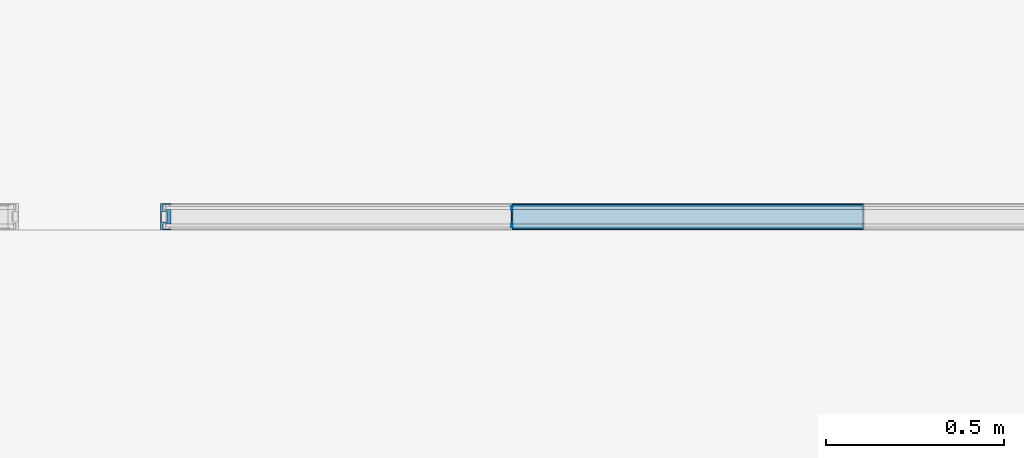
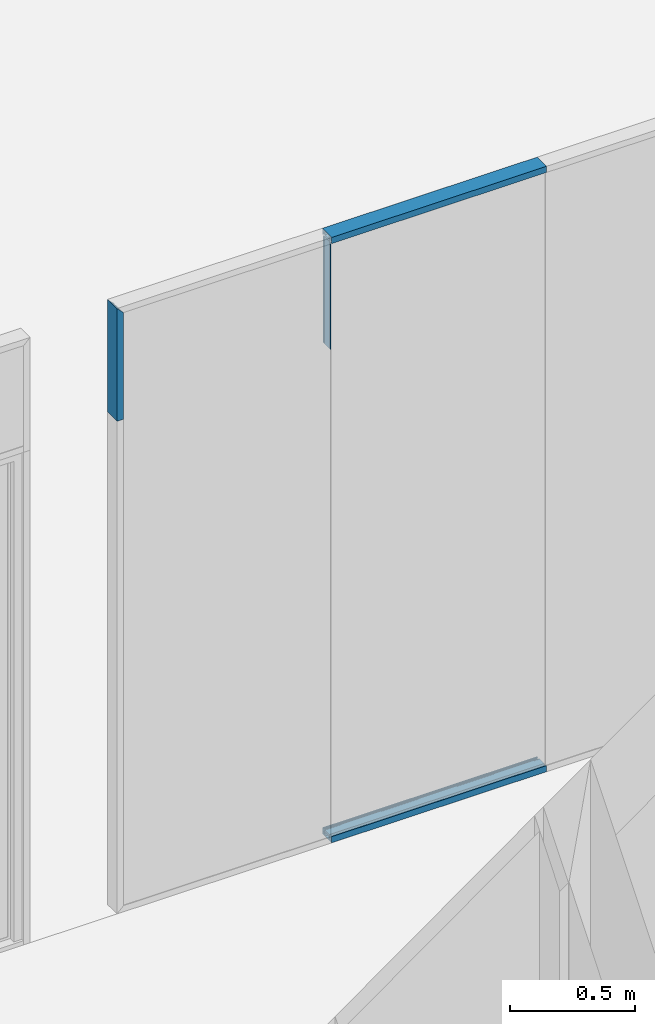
# One storey, part 28 of 62: 7 building element parts, 5 elements without a shape of their own.
"""IFC2X3 building model written with IfcOpenShell, lengths in millimetres."""

from ifc_helpers import new_model, entity, si_unit, converted_unit, derived_unit, money_unit, direction, frame, origin_with_axes, place, context, subcontext, project, spatial, faceted_brep, source, transform, mapped, material, type_object, element, aggregate, save


model = new_model("IFC2X3")

# Units and contexts
model_context = context("Model", 3, precision=0.01, world=origin_with_axes(), true_north=direction((0.0, 1.0)))
body_context = subcontext(model_context, "Body", "Model", "MODEL_VIEW")
ifc_project = project(units=[si_unit("LENGTHUNIT", "METRE", prefix="MILLI"), si_unit("AREAUNIT", "SQUARE_METRE"), si_unit("VOLUMEUNIT", "CUBIC_METRE"), converted_unit("PLANEANGLEUNIT", "DEGREE", entity("IfcPlaneAngleMeasure", 0.0174532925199), si_unit("PLANEANGLEUNIT", "RADIAN"), dimensions=[0, 0, 0, 0, 0, 0, 0]), si_unit("SOLIDANGLEUNIT", "STERADIAN"), money_unit("EUR"), converted_unit("TIMEUNIT", "Year", entity("IfcTimeMeasure", 31556926.0), si_unit("TIMEUNIT", "SECOND"), dimensions=[0, 0, 1, 0, 0, 0, 0]), si_unit("MASSUNIT", "GRAM", prefix="KILO"), si_unit("THERMODYNAMICTEMPERATUREUNIT", "DEGREE_CELSIUS"), si_unit("LUMINOUSINTENSITYUNIT", "LUMEN"), si_unit("ENERGYUNIT", "JOULE", prefix="MEGA"), derived_unit("THERMALCONDUCTANCEUNIT", [(si_unit("POWERUNIT", "WATT"), 1), (si_unit("LENGTHUNIT", "METRE"), -1), (si_unit("THERMODYNAMICTEMPERATUREUNIT", "KELVIN"), -1)]), derived_unit("SPECIFICHEATCAPACITYUNIT", [(si_unit("ENERGYUNIT", "JOULE"), 1), (si_unit("MASSUNIT", "GRAM", prefix="KILO"), -1), (si_unit("THERMODYNAMICTEMPERATUREUNIT", "KELVIN"), -1)]), derived_unit("MASSDENSITYUNIT", [(si_unit("MASSUNIT", "GRAM", prefix="KILO"), 1), (si_unit("VOLUMEUNIT", "CUBIC_METRE"), -1)])], contexts=[model_context])

# Site, building, storey
site_placement = place(None, origin_with_axes())
site = spatial("IfcSite", under=ifc_project, at=site_placement, Name="Puškini 31, Narva", CompositionType="ELEMENT")
building_placement = place(site_placement, origin_with_axes())
building = spatial("IfcBuilding", under=site, at=building_placement, Name="Narva Riigigümnaasium", CompositionType="ELEMENT")
storey_placement = place(building_placement, frame((0.0, 0.0, 660.0), z_axis=(0.0, 0.0, 1.0), x_axis=(1.0, 0.0, 0.0)))
storey = spatial("IfcBuildingStorey", under=building, at=storey_placement, Name="2.korrus +0.66", CompositionType="ELEMENT", Elevation=660.0)

# Curtain wall, members, building element parts
curtain_wall_type = type_object("IfcCurtainWallType", Name="Curtain Wall Type", PredefinedType="NOTDEFINED")
curtain_wall_placement = place(storey_placement, frame((45089.2571373, 223837.000216, -1.99739158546e-06), z_axis=(0.0, 0.0, 1.0), x_axis=(1.0, 0.0, 0.0)))
curtain_wall = element("IfcCurtainWall", 1, at=curtain_wall_placement, inside=storey, type_object=curtain_wall_type, Name="G-SKLF-52")
member_type_1 = type_object("IfcMemberType", Name="30 x 37", PredefinedType="MULLION")
member_1_placement = place(curtain_wall_placement, frame((-558.057143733, 0.0, 0.0), z_axis=(-1.0, 0.0, 0.0), x_axis=(0.0, 0.0, 1.0)))
member_1 = element("IfcMember", 2, at=member_1_placement, type_object=member_type_1, Name="G-SKLF-54-raam", ObjectType="MULLION")
ifc_material_1 = material(Name="Klaasvill")
shared_shape_1 = source(origin_with_axes(), body_context, "Body", "Brep", [
    faceted_brep([(7.49999990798, 20.000000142, 0.0), (13.8499999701, 20.000000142, 0.0), (13.8499999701, 20.000000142, 989.6), (7.49999990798, 20.000000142, 989.6), (7.49999990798, 34.0161444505, 0.0), (13.8499999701, 34.0161444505, 0.0), (13.8499999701, 34.0161444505, 989.6), (7.49999990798, 34.0161444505, 989.6)], [[[0, 1, 2, 3]], [[0, 4, 5, 1]], [[1, 5, 6, 2]], [[3, 2, 6, 7]], [[4, 0, 3, 7]], [[5, 4, 7, 6]]]),
    faceted_brep([(24.987414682, 34.0161444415, 0.0), (25.004489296, 32.0307503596, 0.0), (25.004489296, 32.0307503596, 989.6), (24.987414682, 34.0161444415, 989.6), (28.5126239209, 34.0161444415, 0.0), (28.7655837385, 33.0385325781, 0.0), (28.4955493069, 32.0307503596, 0.0), (27.75780152, 31.2930025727, 0.0), (26.7500193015, 31.0229681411, 0.0), (25.742237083, 31.2930025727, 0.0), (25.742237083, 31.2930025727, 989.6), (26.7500193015, 31.0229681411, 989.6), (27.75780152, 31.2930025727, 989.6), (28.4955493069, 32.0307503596, 989.6), (28.7655837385, 33.0385325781, 989.6), (28.5126239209, 34.0161444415, 989.6)], [[[0, 1, 2, 3]], [[0, 4, 5, 6, 7, 8, 9, 1]], [[1, 9, 10, 2]], [[3, 2, 10, 11, 12, 13, 14, 15]], [[4, 0, 3, 15]], [[5, 4, 15, 14]], [[6, 5, 14, 13]], [[7, 6, 13, 12]], [[8, 7, 12, 11]], [[9, 8, 11, 10]]]),
    faceted_brep([(7.49999990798, -19.9999997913, 0.0), (7.49999990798, -34.0161445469, 0.0), (7.49999990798, -34.0161445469, 989.6), (7.49999990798, -19.9999997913, 989.6), (13.8499999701, -19.9999997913, 0.0), (13.8499999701, -34.0161445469, 0.0), (13.8499999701, -34.0161445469, 989.6), (13.8499999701, -19.9999997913, 989.6)], [[[0, 1, 2, 3]], [[0, 4, 5, 1]], [[1, 5, 6, 2]], [[3, 2, 6, 7]], [[4, 0, 3, 7]], [[5, 4, 7, 6]]]),
    faceted_brep([(25.004489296, -32.0307503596, 0.0), (24.987414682, -34.0161444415, 0.0), (24.987414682, -34.0161444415, 989.6), (25.004489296, -32.0307503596, 989.6), (25.742237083, -31.2930025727, 0.0), (26.7500193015, -31.0229681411, 0.0), (27.75780152, -31.2930025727, 0.0), (28.4955493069, -32.0307503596, 0.0), (28.7655837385, -33.0385325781, 0.0), (28.5126239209, -34.0161444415, 0.0), (28.5126239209, -34.0161444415, 989.6), (28.7655837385, -33.0385325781, 989.6), (28.4955493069, -32.0307503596, 989.6), (27.75780152, -31.2930025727, 989.6), (26.7500193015, -31.0229681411, 989.6), (25.742237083, -31.2930025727, 989.6)], [[[0, 1, 2, 3]], [[0, 4, 5, 6, 7, 8, 9, 1]], [[1, 9, 10, 2]], [[3, 2, 10, 11, 12, 13, 14, 15]], [[4, 0, 3, 15]], [[5, 4, 15, 14]], [[6, 5, 14, 13]], [[7, 6, 13, 12]], [[8, 7, 12, 11]], [[9, 8, 11, 10]]]),
])
building_element_part_1_placement = place(member_1_placement, origin_with_axes())
building_element_part_1 = element("IfcBuildingElementPart", 3, at=building_element_part_1_placement, material=ifc_material_1, Name="Klaasvill", context=body_context, shape_type="MappedRepresentation", body=[
    mapped(shared_shape_1, transform((0.0, 0.0, 0.0))),
])
member_2_placement = place(curtain_wall_placement, frame((-1547.65714373, 0.0, 2949.99994304), z_axis=(1.0, 0.0, 0.0), x_axis=(0.0, 0.0, -1.0)))
member_2 = element("IfcMember", 4, at=member_2_placement, type_object=member_type_1, Name="G-SKLF-59-raam", ObjectType="MULLION")
building_element_part_2_placement = place(member_2_placement, origin_with_axes())
building_element_part_2 = element("IfcBuildingElementPart", 5, at=building_element_part_2_placement, material=ifc_material_1, Name="Klaasvill", context=body_context, shape_type="MappedRepresentation", body=[
    mapped(shared_shape_1, transform((0.0, 0.0, 0.0))),
])
ifc_material_2 = material(Name="Teras RAL7012")
shared_shape_2 = source(origin_with_axes(), body_context, "Body", "Brep", [
    faceted_brep([(0.0, -17.0000000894, 0.0), (29.5999996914, -17.0000000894, 0.0), (29.5999996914, -17.0000000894, 989.6), (0.0, -17.0000000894, 989.6), (0.0, 17.0000000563, 0.0), (29.5999996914, 17.0000000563, 0.0), (1.9999999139, 15.0000001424, 0.0), (1.9999999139, -15.0000001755, 0.0), (18.7999996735, -15.0000001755, 0.0), (18.7999996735, 15.0000001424, 0.0), (29.5999996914, 17.0000000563, 989.6), (0.0, 17.0000000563, 989.6), (1.9999999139, 15.0000001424, 989.6), (18.7999996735, 15.0000001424, 989.6), (18.7999996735, -15.0000001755, 989.6), (1.9999999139, -15.0000001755, 989.6)], [[[0, 1, 2, 3]], [[0, 4, 5, 1], [6, 7, 8, 9]], [[1, 5, 10, 2]], [[3, 2, 10, 11], [12, 13, 14, 15]], [[4, 0, 3, 11]], [[5, 4, 11, 10]], [[7, 6, 12, 15]], [[8, 7, 15, 14]], [[9, 8, 14, 13]], [[6, 9, 13, 12]]]),
    faceted_brep([(0.0, 17.0, 0.0), (29.5999996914, 17.0000000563, 0.0), (29.5999996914, 17.0000000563, 989.6), (0.0, 17.0, 989.6), (0.0, 37.0, 0.0), (30.0000193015, 37.0, 0.0), (30.0000193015, 34.0161444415, 0.0), (28.5126239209, 34.0161444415, 0.0), (24.987414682, 34.0161444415, 0.0), (13.8499999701, 34.0161444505, 0.0), (7.49999999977, 34.0161444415, 0.0), (7.49999999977, 20.0, 0.0), (13.8499999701, 20.000000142, 0.0), (30.0000193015, 20.0, 0.0), (30.0000193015, 17.0, 0.0), (30.0000193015, 17.0, 989.6), (30.0000193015, 20.0, 989.6), (13.8499999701, 20.000000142, 989.6), (7.49999999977, 20.0, 989.6), (7.49999999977, 34.0161444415, 989.6), (13.8499999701, 34.0161444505, 989.6), (24.987414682, 34.0161444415, 989.6), (28.5126239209, 34.0161444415, 989.6), (30.0000193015, 34.0161444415, 989.6), (30.0000193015, 37.0, 989.6), (0.0, 37.0, 989.6)], [[[0, 1, 2, 3]], [[0, 4, 5, 6, 7, 8, 9, 10, 11, 12, 13, 14, 1]], [[1, 14, 15, 2]], [[3, 2, 15, 16, 17, 18, 19, 20, 21, 22, 23, 24, 25]], [[4, 0, 3, 25]], [[5, 4, 25, 24]], [[6, 5, 24, 23]], [[7, 6, 23, 22]], [[8, 7, 22, 21]], [[9, 8, 21, 20]], [[10, 9, 20, 19]], [[11, 10, 19, 18]], [[12, 11, 18, 17]], [[13, 12, 17, 16]], [[14, 13, 16, 15]]]),
    faceted_brep([(0.0, -17.0, 0.0), (0.0, -37.0, 0.0), (0.0, -37.0, 989.6), (0.0, -17.0, 989.6), (29.5999996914, -17.0000000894, 0.0), (30.0000193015, -17.0, 0.0), (30.0000193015, -20.0, 0.0), (13.8499999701, -19.9999997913, 0.0), (7.49999999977, -20.0, 0.0), (7.49999999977, -34.0161444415, 0.0), (13.8499999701, -34.0161445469, 0.0), (24.987414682, -34.0161444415, 0.0), (28.5126239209, -34.0161444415, 0.0), (30.0000193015, -34.0161444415, 0.0), (30.0000193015, -37.0, 0.0), (30.0000193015, -37.0, 989.6), (30.0000193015, -34.0161444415, 989.6), (28.5126239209, -34.0161444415, 989.6), (24.987414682, -34.0161444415, 989.6), (13.8499999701, -34.0161445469, 989.6), (7.49999999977, -34.0161444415, 989.6), (7.49999999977, -20.0, 989.6), (13.8499999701, -19.9999997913, 989.6), (30.0000193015, -20.0, 989.6), (30.0000193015, -17.0, 989.6), (29.5999996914, -17.0000000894, 989.6)], [[[0, 1, 2, 3]], [[0, 4, 5, 6, 7, 8, 9, 10, 11, 12, 13, 14, 1]], [[1, 14, 15, 2]], [[3, 2, 15, 16, 17, 18, 19, 20, 21, 22, 23, 24, 25]], [[4, 0, 3, 25]], [[5, 4, 25, 24]], [[6, 5, 24, 23]], [[7, 6, 23, 22]], [[8, 7, 22, 21]], [[9, 8, 21, 20]], [[10, 9, 20, 19]], [[11, 10, 19, 18]], [[12, 11, 18, 17]], [[13, 12, 17, 16]], [[14, 13, 16, 15]]]),
])
building_element_part_3_placement = place(member_1_placement, origin_with_axes())
building_element_part_3 = element("IfcBuildingElementPart", 6, at=building_element_part_3_placement, material=ifc_material_2, Name="Teras RAL7012", context=body_context, shape_type="MappedRepresentation", body=[
    mapped(shared_shape_2, transform((0.0, 0.0, 0.0))),
])
aggregate(member_1, [building_element_part_1, building_element_part_3])
building_element_part_4_placement = place(member_2_placement, origin_with_axes())
building_element_part_4 = element("IfcBuildingElementPart", 7, at=building_element_part_4_placement, material=ifc_material_2, Name="Teras RAL7012", context=body_context, shape_type="MappedRepresentation", body=[
    mapped(shared_shape_2, transform((0.0, 0.0, 0.0))),
])
aggregate(member_2, [building_element_part_2, building_element_part_4])
member_3_placement = place(curtain_wall_placement, frame((-2537.25717987, 0.0, 2400.0), z_axis=(0.0, 0.0, 1.0), x_axis=(1.0, 0.0, 0.0)))
member_3 = element("IfcMember", 8, at=member_3_placement, type_object=member_type_1, Name="G-SKLF-57-raam", ObjectType="MULLION")
shared_shape_3 = source(origin_with_axes(), body_context, "Body", "Brep", [
    faceted_brep([(0.0, -17.0000000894, 0.0), (29.5999996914, -17.0000000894, 0.0), (29.5999996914, -17.0000000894, 520.400000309), (0.0, -17.0000000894, 550.0), (0.0, 17.0000000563, 0.0), (29.5999996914, 17.0000000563, 0.0), (1.9999999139, 15.0000001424, 0.0), (1.9999999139, -15.0000001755, 0.0), (18.7999996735, -15.0000001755, 0.0), (18.7999996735, 15.0000001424, 0.0), (29.5999996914, 17.0000000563, 520.400000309), (0.0, 17.0000000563, 550.0), (1.9999999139, 15.0000001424, 548.000000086), (18.7999996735, 15.0000001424, 531.200000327), (18.7999996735, -15.0000001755, 531.200000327), (1.9999999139, -15.0000001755, 548.000000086)], [[[0, 1, 2, 3]], [[0, 4, 5, 1], [6, 7, 8, 9]], [[1, 5, 10, 2]], [[3, 2, 10, 11], [12, 13, 14, 15]], [[4, 0, 3, 11]], [[5, 4, 11, 10]], [[7, 6, 12, 15]], [[8, 7, 15, 14]], [[9, 8, 14, 13]], [[6, 9, 13, 12]]]),
    faceted_brep([(0.0, 17.0, 0.0), (29.5999996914, 17.0000000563, 0.0), (29.5999996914, 17.0000000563, 520.400000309), (0.0, 17.0, 550.0), (0.0, 37.0, 0.0), (30.0000193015, 37.0, 0.0), (30.0000193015, 34.0161444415, 0.0), (28.5126239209, 34.0161444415, 0.0), (24.987414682, 34.0161444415, 0.0), (13.8499999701, 34.0161444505, 0.0), (7.49999999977, 34.0161444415, 0.0), (7.49999999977, 20.0, 0.0), (13.8499999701, 20.000000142, 0.0), (30.0000193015, 20.0, 0.0), (30.0000193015, 17.0, 0.0), (30.0000193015, 17.0, 519.999980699), (30.0000193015, 20.0, 519.999980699), (13.8499999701, 20.000000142, 536.15000003), (7.49999999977, 20.0, 542.5), (7.49999999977, 34.0161444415, 542.5), (13.8499999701, 34.0161444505, 536.15000003), (24.987414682, 34.0161444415, 525.012585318), (28.5126239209, 34.0161444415, 521.487376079), (30.0000193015, 34.0161444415, 519.999980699), (30.0000193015, 37.0, 519.999980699), (0.0, 37.0, 550.0)], [[[0, 1, 2, 3]], [[0, 4, 5, 6, 7, 8, 9, 10, 11, 12, 13, 14, 1]], [[1, 14, 15, 2]], [[3, 2, 15, 16, 17, 18, 19, 20, 21, 22, 23, 24, 25]], [[4, 0, 3, 25]], [[5, 4, 25, 24]], [[6, 5, 24, 23]], [[7, 6, 23, 22]], [[8, 7, 22, 21]], [[9, 8, 21, 20]], [[10, 9, 20, 19]], [[11, 10, 19, 18]], [[12, 11, 18, 17]], [[13, 12, 17, 16]], [[14, 13, 16, 15]]]),
    faceted_brep([(0.0, -17.0, 0.0), (0.0, -37.0, 0.0), (0.0, -37.0, 550.0), (0.0, -17.0, 550.0), (29.5999996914, -17.0000000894, 0.0), (30.0000193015, -17.0, 0.0), (30.0000193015, -20.0, 0.0), (13.8499999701, -19.9999997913, 0.0), (7.49999999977, -20.0, 0.0), (7.49999999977, -34.0161444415, 0.0), (13.8499999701, -34.0161445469, 0.0), (24.987414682, -34.0161444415, 0.0), (28.5126239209, -34.0161444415, 0.0), (30.0000193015, -34.0161444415, 0.0), (30.0000193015, -37.0, 0.0), (30.0000193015, -37.0, 519.999980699), (30.0000193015, -34.0161444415, 519.999980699), (28.5126239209, -34.0161444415, 521.487376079), (24.987414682, -34.0161444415, 525.012585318), (13.8499999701, -34.0161445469, 536.15000003), (7.49999999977, -34.0161444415, 542.5), (7.49999999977, -20.0, 542.5), (13.8499999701, -19.9999997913, 536.15000003), (30.0000193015, -20.0, 519.999980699), (30.0000193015, -17.0, 519.999980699), (29.5999996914, -17.0000000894, 520.400000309)], [[[0, 1, 2, 3]], [[0, 4, 5, 6, 7, 8, 9, 10, 11, 12, 13, 14, 1]], [[1, 14, 15, 2]], [[3, 2, 15, 16, 17, 18, 19, 20, 21, 22, 23, 24, 25]], [[4, 0, 3, 25]], [[5, 4, 25, 24]], [[6, 5, 24, 23]], [[7, 6, 23, 22]], [[8, 7, 22, 21]], [[9, 8, 21, 20]], [[10, 9, 20, 19]], [[11, 10, 19, 18]], [[12, 11, 18, 17]], [[13, 12, 17, 16]], [[14, 13, 16, 15]]]),
])
building_element_part_5_placement = place(member_3_placement, origin_with_axes())
building_element_part_5 = element("IfcBuildingElementPart", 9, at=building_element_part_5_placement, material=ifc_material_2, Name="Teras RAL7012", context=body_context, shape_type="MappedRepresentation", body=[
    mapped(shared_shape_3, transform((0.0, 0.0, 0.0))),
])
aggregate(member_3, [building_element_part_5])
member_type_2 = type_object("IfcMemberType", Name="3 x -35", PredefinedType="MULLION")
member_4_placement = place(curtain_wall_placement, frame((-1547.65714373, 0.0, 2400.0), z_axis=(0.0, 0.0, 1.0), x_axis=(1.0, 0.0, 0.0)))
member_4 = element("IfcMember", 10, at=member_4_placement, type_object=member_type_2, Name="G-SKLF-52-raam", ObjectType="MULLION")
aggregate(curtain_wall, [member_1, member_2, member_4, member_3])
ifc_material_3 = material(Name="Klaas")
shared_shape_4 = source(origin_with_axes(), body_context, "Body", "Brep", [
    faceted_brep([(-1.4999861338, 20.0064497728, 0.0), (1.5000138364, 20.0064497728, 0.0), (1.5000138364, 20.0064497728, 519.999923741), (-1.4999861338, 20.0064497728, 519.999923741), (-1.4999861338, 29.0064496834, 0.0), (1.5000138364, 29.0064496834, 0.0), (1.5000138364, 29.0064496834, 519.999923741), (-1.4999861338, 29.0064496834, 519.999923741)], [[[0, 1, 2, 3]], [[0, 4, 5, 1]], [[1, 5, 6, 2]], [[3, 2, 6, 7]], [[4, 0, 3, 7]], [[5, 4, 7, 6]]]),
    faceted_brep([(-1.4999861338, -19.993550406, 0.0), (-1.4999861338, -28.9935503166, 0.0), (-1.4999861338, -28.9935503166, 519.999923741), (-1.4999861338, -19.993550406, 519.999923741), (1.5000138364, -19.993550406, 0.0), (1.5000138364, -28.9935503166, 0.0), (1.5000138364, -28.9935503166, 519.999923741), (1.5000138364, -19.993550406, 519.999923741)], [[[0, 1, 2, 3]], [[0, 4, 5, 1]], [[1, 5, 6, 2]], [[3, 2, 6, 7]], [[4, 0, 3, 7]], [[5, 4, 7, 6]]]),
])
building_element_part_6_placement = place(member_4_placement, origin_with_axes())
building_element_part_6 = element("IfcBuildingElementPart", 11, at=building_element_part_6_placement, material=ifc_material_3, Name="Klaas", context=body_context, shape_type="MappedRepresentation", body=[
    mapped(shared_shape_4, transform((0.0, 0.0, 0.0))),
])
ifc_material_4 = material(Name="VKR-06_Õhkvahe")
shared_shape_5 = source(origin_with_axes(), body_context, "Body", "Brep", [
    faceted_brep([(-1.4999861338, 20.0064496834, 0.0), (-1.4999861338, -19.9935503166, 0.0), (-1.4999861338, -19.9935503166, 519.999923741), (-1.4999861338, 20.0064496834, 519.999923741), (1.5000138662, 20.0064496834, 0.0), (1.5000138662, -19.9935503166, 0.0), (1.5000138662, -19.9935503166, 519.999923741), (1.5000138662, 20.0064496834, 519.999923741)], [[[0, 1, 2, 3]], [[0, 4, 5, 1]], [[1, 5, 6, 2]], [[3, 2, 6, 7]], [[4, 0, 3, 7]], [[5, 4, 7, 6]]]),
])
building_element_part_7_placement = place(member_4_placement, origin_with_axes())
building_element_part_7 = element("IfcBuildingElementPart", 12, at=building_element_part_7_placement, material=ifc_material_4, Name="VKR-06_Õhkvahe", context=body_context, shape_type="MappedRepresentation", body=[
    mapped(shared_shape_5, transform((0.0, 0.0, 0.0))),
])
aggregate(member_4, [building_element_part_6, building_element_part_7])

save(model, "model.ifc")
